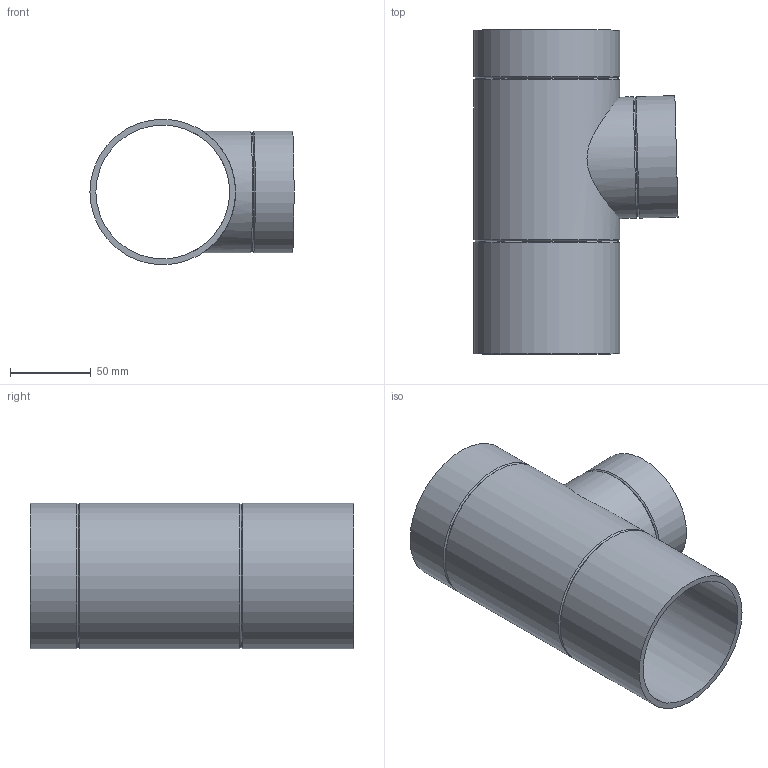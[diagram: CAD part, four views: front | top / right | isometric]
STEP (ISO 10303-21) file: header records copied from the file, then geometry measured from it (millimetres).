
FILE_DESCRIPTION(/* description */ (''),/* implementation_level */ '2;1');
FILE_NAME(/* name */ 'Z:\Geberit\Export\NewStep\366175.stp',/* time_stamp */ '2014-04-02T07:54:01+02:00',/* author */ ('nelson'),/* organization */ (''),/* preprocessor_version */ 'ST-DEVELOPER v15.2',/* originating_system */ 'Autodesk Inventor 2014',/* authorisation */ '');
FILE_SCHEMA (('AUTOMOTIVE_DESIGN { 1 0 10303 214 3 1 1 }'));
Length unit declared in the file: millimetre
Products named in the file (1): 366175
Bounding box: 126.65 x 201 x 90.38 mm (x, y, z)
Volume: 216762.8 mm3; surface area: 124463.5 mm2
Topology: 1 solids, 1 shells, 16 faces, 37 edges, 23 vertices
Faces by surface type: cylinder 7, cone 6, plane 3
Full cylindrical faces by diameter (mm): 69.05 x1, 75.35 x2, 83.02 x1, 90.38 x3
Entity records: 503 total; most frequent: CARTESIAN_POINT 181, DIRECTION 64, EDGE_LOOP 34, ORIENTED_EDGE 34, AXIS2_PLACEMENT_3D 32, FACE_BOUND 22, VERTEX_POINT 17, EDGE_CURVE 17
